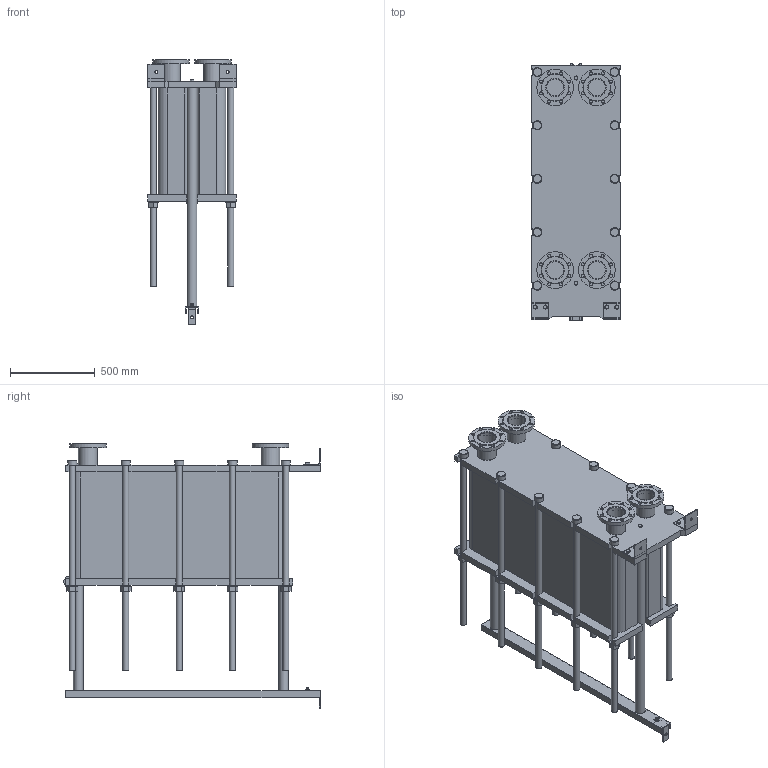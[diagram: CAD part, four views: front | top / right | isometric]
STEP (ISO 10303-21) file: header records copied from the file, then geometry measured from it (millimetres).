
FILE_DESCRIPTION(/* description */ (''),/* implementation_level */ '2;1');
FILE_NAME(/* name */ 'C:\Users\zhuro\Desktop\ENCO\TO\ЭН-04\ЭН-0,5-04-182-1.stp',/* time_stamp */ '2022-06-06T11:00:53+03:00',/* author */ ('zhuro'),/* organization */ (''),/* preprocessor_version */ 'ST-DEVELOPER v18.1',/* originating_system */ 'Autodesk Inventor 2022',/* authorisation */ '');
FILE_SCHEMA (('AUTOMOTIVE_DESIGN { 1 0 10303 214 3 1 1 }'));
Length unit declared in the file: millimetre
Products named in the file (1): ЭН-0,5-04-182-1
Bounding box: 520 x 1510 x 1566 mm (x, y, z)
Volume: 389416874.6 mm3; surface area: 10158449.7 mm2
Topology: 45 solids, 45 shells, 668 faces, 1611 edges, 1048 vertices
Faces by surface type: plane 457, cylinder 166, cone 39, torus 6
Full cylindrical faces by diameter (mm): 8 x4, 10 x2, 16 x8, 18 x35, 36 x25, 40 x2, 42 x1, 45 x4, 54 x10, 57 x2, 60 x10, 68 x2, 100 x4, 110 x8, 215 x4
Entity records: 23607 total; most frequent: CARTESIAN_POINT 7348, DIRECTION 3371, ORIENTED_EDGE 3142, EDGE_CURVE 1571, AXIS2_PLACEMENT_3D 1199, VERTEX_POINT 1044, LINE 973, VECTOR 973
